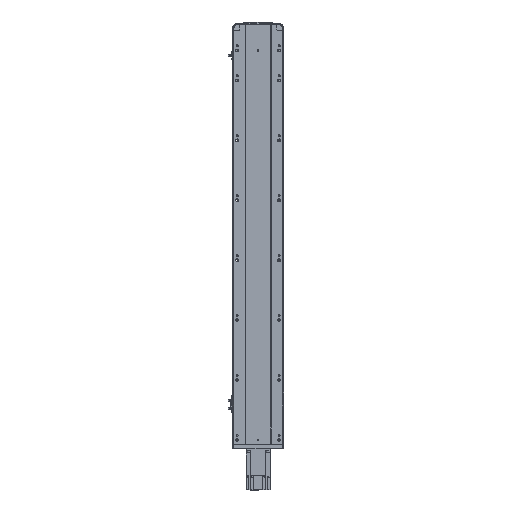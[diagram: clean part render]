
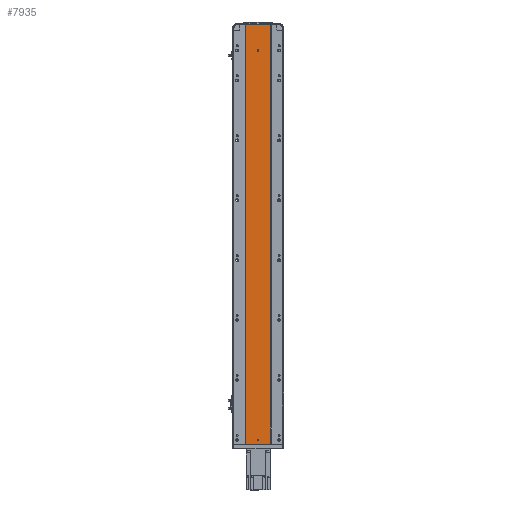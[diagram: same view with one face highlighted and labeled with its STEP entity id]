
A CAD part, top view. The second image highlights one B-rep face of the part: STEP entity #7935.
In plain terms, the highlighted planar face has unit normal (0, 0, 1).
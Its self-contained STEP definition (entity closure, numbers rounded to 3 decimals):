
#528 = CARTESIAN_POINT ( 'NONE',  ( 0., 1312.5, 44. ) ) ;
#712 = DIRECTION ( 'NONE',  ( 1., 0., 0. ) ) ;
#1169 = CARTESIAN_POINT ( 'NONE',  ( 3., 1314.5, 44. ) ) ;
#2091 = ORIENTED_EDGE ( 'NONE', *, *, #13637, .F. ) ;
#2259 = DIRECTION ( 'NONE',  ( 1., 0., 0. ) ) ;
#3540 = VERTEX_POINT ( 'NONE', #47356 ) ;
#3948 = EDGE_CURVE ( 'NONE', #37296, #38731, #4361, .T. ) ;
#4038 = CARTESIAN_POINT ( 'NONE',  ( 0., 1314.5, 44. ) ) ;
#4361 = CIRCLE ( 'NONE', #47142, 3. ) ;
#4519 = EDGE_CURVE ( 'NONE', #44489, #3540, #40609, .T. ) ;
#4761 = ORIENTED_EDGE ( 'NONE', *, *, #22536, .F. ) ;
#5438 = CARTESIAN_POINT ( 'NONE',  ( 42., 1400., 44. ) ) ;
#6481 = DIRECTION ( 'NONE',  ( 0., 0., -1. ) ) ;
#7188 = VECTOR ( 'NONE', #29213, 1000. ) ;
#7555 = AXIS2_PLACEMENT_3D ( 'NONE', #43549, #47894, #2259 ) ;
#7870 = CARTESIAN_POINT ( 'NONE',  ( -3., 1314.5, 44. ) ) ;
#7935 = ADVANCED_FACE ( 'NONE', ( #39063, #28006, #16955 ), #17621, .F. ) ;
#8039 = ORIENTED_EDGE ( 'NONE', *, *, #8185, .F. ) ;
#8185 = EDGE_CURVE ( 'NONE', #24389, #3540, #51298, .T. ) ;
#9646 = ORIENTED_EDGE ( 'NONE', *, *, #19053, .F. ) ;
#10268 = EDGE_LOOP ( 'NONE', ( #52675, #49910, #2091, #34588 ) ) ;
#10827 = CARTESIAN_POINT ( 'NONE',  ( 3., 1314.5, 44. ) ) ;
#11034 = CARTESIAN_POINT ( 'NONE',  ( 0., 13.5, 44. ) ) ;
#11212 = DIRECTION ( 'NONE',  ( 1., 0., 0. ) ) ;
#11277 = DIRECTION ( 'NONE',  ( 1., 0., 0. ) ) ;
#11639 = VERTEX_POINT ( 'NONE', #1169 ) ;
#11930 = EDGE_CURVE ( 'NONE', #34401, #44489, #12432, .T. ) ;
#12129 = AXIS2_PLACEMENT_3D ( 'NONE', #11034, #52306, #11212 ) ;
#12432 = LINE ( 'NONE', #28295, #25379 ) ;
#12923 = CARTESIAN_POINT ( 'NONE',  ( -3., 1314.5, 44. ) ) ;
#13637 = EDGE_CURVE ( 'NONE', #38731, #11639, #33774, .T. ) ;
#13958 = AXIS2_PLACEMENT_3D ( 'NONE', #17440, #6481, #26897 ) ;
#16158 = CARTESIAN_POINT ( 'NONE',  ( -3., 13.5, 44. ) ) ;
#16955 = FACE_OUTER_BOUND ( 'NONE', #40340, .T. ) ;
#17440 = CARTESIAN_POINT ( 'NONE',  ( -42., 1400., 44. ) ) ;
#17621 = PLANE ( 'NONE',  #13958 ) ;
#18187 = CARTESIAN_POINT ( 'NONE',  ( -42., 0., 44. ) ) ;
#18347 = LINE ( 'NONE', #36484, #22890 ) ;
#19053 = EDGE_CURVE ( 'NONE', #37511, #22248, #35254, .T. ) ;
#19209 = EDGE_CURVE ( 'NONE', #34401, #24389, #18347, .T. ) ;
#20011 = CIRCLE ( 'NONE', #12129, 3. ) ;
#22248 = VERTEX_POINT ( 'NONE', #16158 ) ;
#22536 = EDGE_CURVE ( 'NONE', #22248, #37511, #20011, .T. ) ;
#22734 = VECTOR ( 'NONE', #52278, 1000. ) ;
#22890 = VECTOR ( 'NONE', #11277, 1000. ) ;
#24389 = VERTEX_POINT ( 'NONE', #40310 ) ;
#25379 = VECTOR ( 'NONE', #28655, 1000. ) ;
#26381 = EDGE_LOOP ( 'NONE', ( #9646, #4761 ) ) ;
#26897 = DIRECTION ( 'NONE',  ( -1., 0., 0. ) ) ;
#27883 = LINE ( 'NONE', #12923, #7188 ) ;
#28006 = FACE_BOUND ( 'NONE', #10268, .T. ) ;
#28295 = CARTESIAN_POINT ( 'NONE',  ( -42., 1400., 44. ) ) ;
#28360 = CARTESIAN_POINT ( 'NONE',  ( -3., 1312.5, 44. ) ) ;
#28655 = DIRECTION ( 'NONE',  ( 0., -1., 0. ) ) ;
#28880 = ORIENTED_EDGE ( 'NONE', *, *, #4519, .T. ) ;
#29213 = DIRECTION ( 'NONE',  ( 0., -1., 0. ) ) ;
#32276 = DIRECTION ( 'NONE',  ( 1., 0., 0. ) ) ;
#32995 = VERTEX_POINT ( 'NONE', #7870 ) ;
#33018 = EDGE_CURVE ( 'NONE', #11639, #32995, #35144, .T. ) ;
#33773 = EDGE_CURVE ( 'NONE', #32995, #37296, #27883, .T. ) ;
#33774 = LINE ( 'NONE', #10827, #22734 ) ;
#34401 = VERTEX_POINT ( 'NONE', #53301 ) ;
#34588 = ORIENTED_EDGE ( 'NONE', *, *, #3948, .F. ) ;
#35144 = CIRCLE ( 'NONE', #44453, 3. ) ;
#35254 = CIRCLE ( 'NONE', #7555, 3. ) ;
#36484 = CARTESIAN_POINT ( 'NONE',  ( -42., 1400., 44. ) ) ;
#37296 = VERTEX_POINT ( 'NONE', #28360 ) ;
#37511 = VERTEX_POINT ( 'NONE', #50253 ) ;
#38178 = DIRECTION ( 'NONE',  ( 1., 0., 0. ) ) ;
#38731 = VERTEX_POINT ( 'NONE', #40357 ) ;
#39063 = FACE_BOUND ( 'NONE', #26381, .T. ) ;
#39454 = DIRECTION ( 'NONE',  ( 0., -1., 0. ) ) ;
#40310 = CARTESIAN_POINT ( 'NONE',  ( 42., 1400., 44. ) ) ;
#40340 = EDGE_LOOP ( 'NONE', ( #28880, #8039, #41609, #44184 ) ) ;
#40357 = CARTESIAN_POINT ( 'NONE',  ( 3., 1312.5, 44. ) ) ;
#40609 = LINE ( 'NONE', #18187, #43825 ) ;
#41150 = DIRECTION ( 'NONE',  ( 0., 0., 1. ) ) ;
#41609 = ORIENTED_EDGE ( 'NONE', *, *, #19209, .F. ) ;
#41772 = CARTESIAN_POINT ( 'NONE',  ( -42., 0., 44. ) ) ;
#43549 = CARTESIAN_POINT ( 'NONE',  ( 0., 13.5, 44. ) ) ;
#43825 = VECTOR ( 'NONE', #38178, 1000. ) ;
#44184 = ORIENTED_EDGE ( 'NONE', *, *, #11930, .T. ) ;
#44453 = AXIS2_PLACEMENT_3D ( 'NONE', #4038, #44797, #32276 ) ;
#44489 = VERTEX_POINT ( 'NONE', #41772 ) ;
#44797 = DIRECTION ( 'NONE',  ( 0., 0., 1. ) ) ;
#44829 = VECTOR ( 'NONE', #39454, 1000. ) ;
#47142 = AXIS2_PLACEMENT_3D ( 'NONE', #528, #41150, #712 ) ;
#47356 = CARTESIAN_POINT ( 'NONE',  ( 42., 0., 44. ) ) ;
#47894 = DIRECTION ( 'NONE',  ( 0., 0., 1. ) ) ;
#49910 = ORIENTED_EDGE ( 'NONE', *, *, #33018, .F. ) ;
#50253 = CARTESIAN_POINT ( 'NONE',  ( 3., 13.5, 44. ) ) ;
#51298 = LINE ( 'NONE', #5438, #44829 ) ;
#52278 = DIRECTION ( 'NONE',  ( 0., 1., 0. ) ) ;
#52306 = DIRECTION ( 'NONE',  ( 0., 0., 1. ) ) ;
#52675 = ORIENTED_EDGE ( 'NONE', *, *, #33773, .F. ) ;
#53301 = CARTESIAN_POINT ( 'NONE',  ( -42., 1400., 44. ) ) ;
